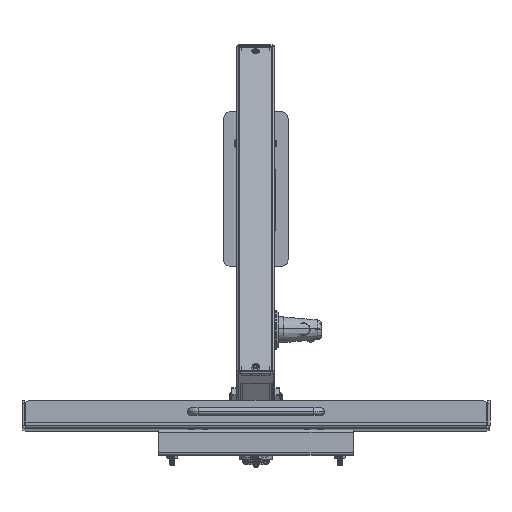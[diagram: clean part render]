
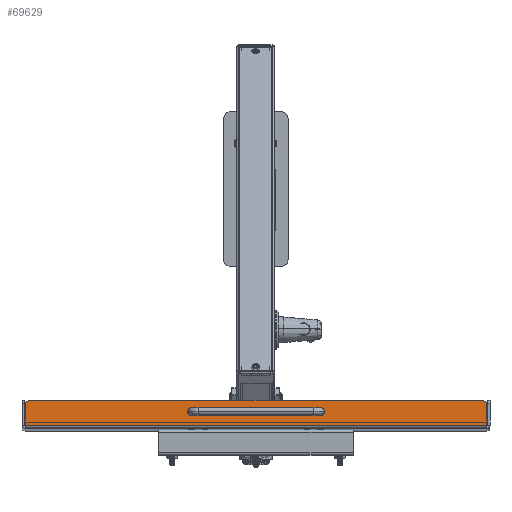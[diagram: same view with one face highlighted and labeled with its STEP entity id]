
A CAD part, top view. The second image highlights one B-rep face of the part: STEP entity #69629.
In plain terms, the highlighted planar face has unit normal (0, 0.007, 1) as drawn and (0, 0, 1) by its records, which use the part's own axes.
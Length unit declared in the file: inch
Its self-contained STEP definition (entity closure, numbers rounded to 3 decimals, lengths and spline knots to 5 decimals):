
#692 = AXIS2_PLACEMENT_3D ( 'NONE', #40387, #1433, #73131 ) ;
#958 = CARTESIAN_POINT ( 'NONE',  ( 8.96464, 0.87817, 6.09 ) ) ;
#1050 = DIRECTION ( 'NONE',  ( 0., 0., -1. ) ) ;
#1433 = DIRECTION ( 'NONE',  ( 0., 0., -1. ) ) ;
#3206 = CARTESIAN_POINT ( 'NONE',  ( -2.6005, 0.55, 6.09 ) ) ;
#3528 = CARTESIAN_POINT ( 'NONE',  ( 8.96464, 0.032, 6.09 ) ) ;
#4918 = DIRECTION ( 'NONE',  ( 0., -1., 0. ) ) ;
#5346 = CARTESIAN_POINT ( 'NONE',  ( 2.5, 0.55, 6.09 ) ) ;
#6061 = EDGE_CURVE ( 'NONE', #31737, #77317, #34847, .T. ) ;
#6099 = LINE ( 'NONE', #31664, #64725 ) ;
#6675 = ORIENTED_EDGE ( 'NONE', *, *, #20196, .T. ) ;
#6750 = VECTOR ( 'NONE', #4918, 39.37008 ) ;
#6869 = DIRECTION ( 'NONE',  ( 0., -1., 0. ) ) ;
#8025 = ORIENTED_EDGE ( 'NONE', *, *, #47335, .F. ) ;
#9553 = LINE ( 'NONE', #59004, #25381 ) ;
#9757 = CARTESIAN_POINT ( 'NONE',  ( -8.75, 0.75, 6.09 ) ) ;
#11162 = CARTESIAN_POINT ( 'NONE',  ( 8.75, 0.75, 6.09 ) ) ;
#11865 = EDGE_CURVE ( 'NONE', #30440, #28889, #60698, .T. ) ;
#14603 = VERTEX_POINT ( 'NONE', #71189 ) ;
#15255 = VERTEX_POINT ( 'NONE', #33835 ) ;
#16069 = VERTEX_POINT ( 'NONE', #40709 ) ;
#16490 = ORIENTED_EDGE ( 'NONE', *, *, #69903, .T. ) ;
#17352 = CARTESIAN_POINT ( 'NONE',  ( -8.75, 1., 6.09 ) ) ;
#17566 = ORIENTED_EDGE ( 'NONE', *, *, #36985, .F. ) ;
#19003 = CIRCLE ( 'NONE', #52500, 0.25 ) ;
#20196 = EDGE_CURVE ( 'NONE', #45700, #16069, #68525, .T. ) ;
#22437 = EDGE_CURVE ( 'NONE', #14603, #24968, #9553, .T. ) ;
#24155 = DIRECTION ( 'NONE',  ( 0., -1., 0. ) ) ;
#24968 = VERTEX_POINT ( 'NONE', #3528 ) ;
#25381 = VECTOR ( 'NONE', #77903, 39.37008 ) ;
#25434 = DIRECTION ( 'NONE',  ( -1., 0., 0. ) ) ;
#25462 = ORIENTED_EDGE ( 'NONE', *, *, #22437, .T. ) ;
#25899 = ORIENTED_EDGE ( 'NONE', *, *, #11865, .T. ) ;
#26138 = CIRCLE ( 'NONE', #692, 0.1005 ) ;
#26641 = DIRECTION ( 'NONE',  ( -1., 0., 0. ) ) ;
#28889 = VERTEX_POINT ( 'NONE', #73335 ) ;
#30440 = VERTEX_POINT ( 'NONE', #38189 ) ;
#31639 = AXIS2_PLACEMENT_3D ( 'NONE', #11162, #69383, #24155 ) ;
#31664 = CARTESIAN_POINT ( 'NONE',  ( 8.96464, 0.75, 6.09 ) ) ;
#31737 = VERTEX_POINT ( 'NONE', #36383 ) ;
#31793 = EDGE_CURVE ( 'NONE', #28889, #30440, #59913, .T. ) ;
#32071 = DIRECTION ( 'NONE',  ( 0., 0., -1. ) ) ;
#32355 = AXIS2_PLACEMENT_3D ( 'NONE', #64762, #1050, #26641 ) ;
#32434 = CARTESIAN_POINT ( 'NONE',  ( 8.75, 0.75, 6.09 ) ) ;
#32978 = EDGE_CURVE ( 'NONE', #38223, #31737, #64394, .T. ) ;
#33001 = EDGE_LOOP ( 'NONE', ( #16490, #6675 ) ) ;
#33835 = CARTESIAN_POINT ( 'NONE',  ( -8.96464, 0.87817, 6.09 ) ) ;
#34847 = CIRCLE ( 'NONE', #77700, 0.25 ) ;
#36383 = CARTESIAN_POINT ( 'NONE',  ( 8.75, 1., 6.09 ) ) ;
#36985 = EDGE_CURVE ( 'NONE', #15255, #38223, #19003, .T. ) ;
#37215 = DIRECTION ( 'NONE',  ( 1., 0., 0. ) ) ;
#38189 = CARTESIAN_POINT ( 'NONE',  ( 2.6005, 0.55, 6.09 ) ) ;
#38223 = VERTEX_POINT ( 'NONE', #17352 ) ;
#39654 = EDGE_LOOP ( 'NONE', ( #8025, #65659, #79752, #17566, #64505, #25462 ) ) ;
#40387 = CARTESIAN_POINT ( 'NONE',  ( -2.5, 0.55, 6.09 ) ) ;
#40709 = CARTESIAN_POINT ( 'NONE',  ( -2.3995, 0.55, 6.09 ) ) ;
#43796 = FACE_BOUND ( 'NONE', #33001, .T. ) ;
#45700 = VERTEX_POINT ( 'NONE', #3206 ) ;
#47041 = DIRECTION ( 'NONE',  ( 0., -1., 0. ) ) ;
#47335 = EDGE_CURVE ( 'NONE', #77317, #24968, #6099, .T. ) ;
#48894 = DIRECTION ( 'NONE',  ( 0., -1., 0. ) ) ;
#52500 = AXIS2_PLACEMENT_3D ( 'NONE', #9757, #53335, #47041 ) ;
#53335 = DIRECTION ( 'NONE',  ( 0., 0., -1. ) ) ;
#55988 = FACE_OUTER_BOUND ( 'NONE', #39654, .T. ) ;
#57636 = DIRECTION ( 'NONE',  ( -1., 0., 0. ) ) ;
#59004 = CARTESIAN_POINT ( 'NONE',  ( 8.75, 0.032, 6.09 ) ) ;
#59913 = CIRCLE ( 'NONE', #61229, 0.1005 ) ;
#60698 = CIRCLE ( 'NONE', #82177, 0.1005 ) ;
#60720 = EDGE_LOOP ( 'NONE', ( #25899, #68011 ) ) ;
#61229 = AXIS2_PLACEMENT_3D ( 'NONE', #5346, #70257, #25434 ) ;
#62326 = CARTESIAN_POINT ( 'NONE',  ( -8.96464, 0.75, 6.09 ) ) ;
#63579 = CARTESIAN_POINT ( 'NONE',  ( 8.75, 1., 6.09 ) ) ;
#64394 = LINE ( 'NONE', #63579, #65090 ) ;
#64505 = ORIENTED_EDGE ( 'NONE', *, *, #71835, .T. ) ;
#64725 = VECTOR ( 'NONE', #48894, 39.37008 ) ;
#64762 = CARTESIAN_POINT ( 'NONE',  ( -2.5, 0.55, 6.09 ) ) ;
#65090 = VECTOR ( 'NONE', #37215, 39.37008 ) ;
#65659 = ORIENTED_EDGE ( 'NONE', *, *, #6061, .F. ) ;
#68011 = ORIENTED_EDGE ( 'NONE', *, *, #31793, .T. ) ;
#68525 = CIRCLE ( 'NONE', #32355, 0.1005 ) ;
#68563 = FACE_BOUND ( 'NONE', #60720, .T. ) ;
#69383 = DIRECTION ( 'NONE',  ( 0., 0., 1. ) ) ;
#69629 = ADVANCED_FACE ( 'NONE', ( #43796, #55988, #68563 ), #81620, .T. ) ;
#69903 = EDGE_CURVE ( 'NONE', #16069, #45700, #26138, .T. ) ;
#70257 = DIRECTION ( 'NONE',  ( 0., 0., -1. ) ) ;
#71189 = CARTESIAN_POINT ( 'NONE',  ( -8.96464, 0.032, 6.09 ) ) ;
#71835 = EDGE_CURVE ( 'NONE', #15255, #14603, #80837, .T. ) ;
#73131 = DIRECTION ( 'NONE',  ( -1., 0., 0. ) ) ;
#73335 = CARTESIAN_POINT ( 'NONE',  ( 2.3995, 0.55, 6.09 ) ) ;
#75738 = CARTESIAN_POINT ( 'NONE',  ( 2.5, 0.55, 6.09 ) ) ;
#77317 = VERTEX_POINT ( 'NONE', #958 ) ;
#77326 = DIRECTION ( 'NONE',  ( 0., 0., -1. ) ) ;
#77700 = AXIS2_PLACEMENT_3D ( 'NONE', #32434, #77326, #6869 ) ;
#77903 = DIRECTION ( 'NONE',  ( 1., 0., 0. ) ) ;
#79752 = ORIENTED_EDGE ( 'NONE', *, *, #32978, .F. ) ;
#80837 = LINE ( 'NONE', #62326, #6750 ) ;
#81620 = PLANE ( 'NONE',  #31639 ) ;
#82177 = AXIS2_PLACEMENT_3D ( 'NONE', #75738, #32071, #57636 ) ;
